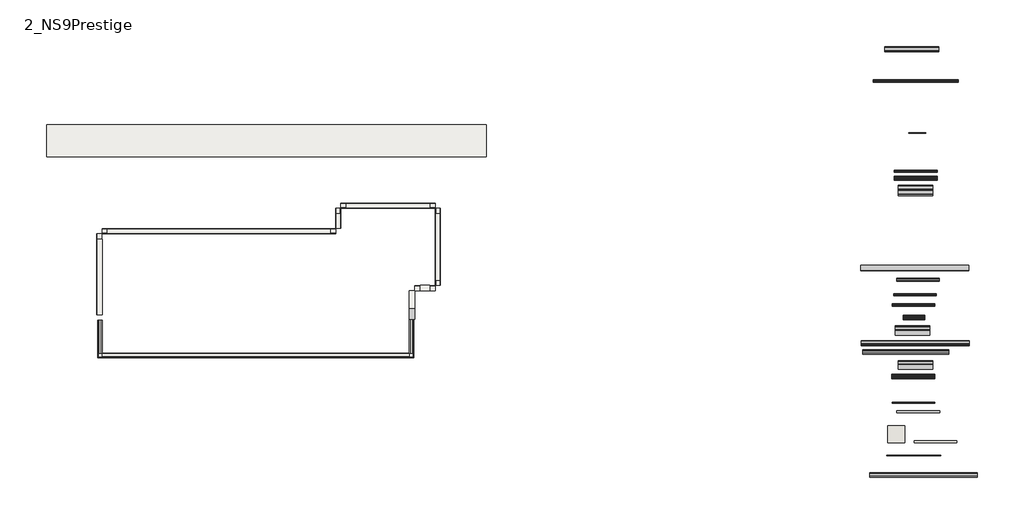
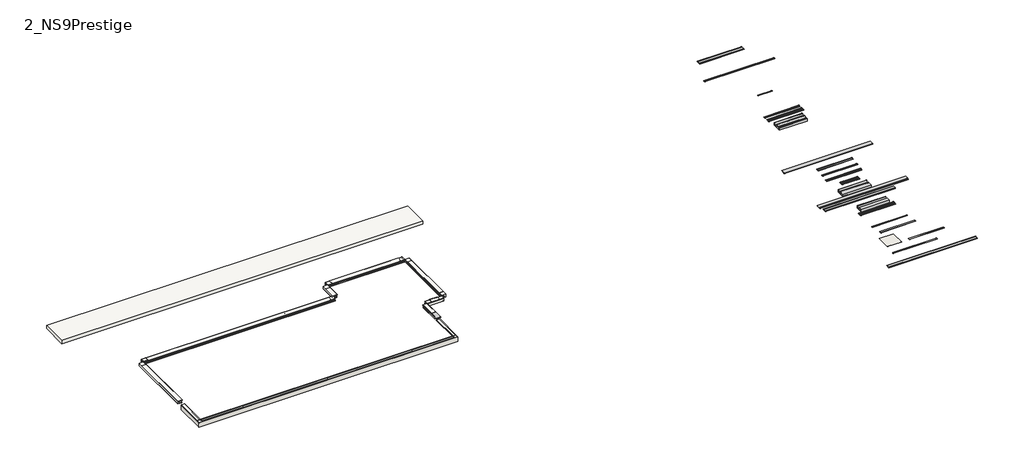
# One storey: 21 proxies, 18 slabs, 5 walls.
"""IFC4 building model written with IfcOpenShell, lengths in millimetres."""

from ifc_helpers import new_model, si_unit, frame, origin, place, context, project, spatial, polyline, outline, extrude, faceted_brep, transform, mapped, element, save
from components import generic_models_8ecae792, generic_models_b1896c54, generic_models_54147b73, generic_models_b9b95333, generic_models_aabe8a61, generic_models_b8b53aee, generic_models_fe17f52b, generic_models_7034d713, generic_models_974fd3aa, generic_models_bae6f31c, generic_models_4adef035, generic_models_2699ce9c, generic_models_ffed2a8b, generic_models_b56241a0, generic_models_6b5908dc, generic_models_9f248290, generic_models_0c7c71ab, generic_models_16c41e59, generic_models_e84ea2a9, generic_models_8b6e8294, generic_models_1c02ff2d, slab_2a0611e9, slab_2759e49a, slab_fb81437d, slab_95e174f0, slab_357b1d08, slab_759c7b63, slab_1f1ebde0, slab_3f97a147, slab_975a66a1, slab_562a9645, bloque_rs_951_757072f9, bloque_rs_951_10da1a55, bloque_rs_951_037b68bb, bloque_rs_951_400cc816, bloque_rs_951_bf02a5ba, bloque_rs_951_6084ace4, bloque_rs_951_bd9da47f, wall_9159aa23, wall_a92842a3

model = new_model("IFC4")

# Units and contexts
model_context = context("Model", 3, world=origin())
ifc_project = project(units=[si_unit("LENGTHUNIT", "METRE", prefix="MILLI")], contexts=[model_context])

# Site, building, storey
site = spatial("IfcSite", under=ifc_project)
building = spatial("IfcBuilding", under=site)
storey = spatial("IfcBuildingStorey", under=building, Name="2_NS9Prestige", Elevation=-245.0)

# Proxies
placement = place(None, origin())
generic_models_shape = generic_models_8ecae792(model_context)
element("IfcBuildingElementProxy", 1, Name="Muestra 2.01m RS921 : Muestra 2.01m RS921", ObjectType="Muestra 2.01m RS921 : Muestra 2.01m RS921", at=placement, inside=storey, context=model_context, shape_type="MappedRepresentation", body=[
    mapped(generic_models_shape, transform((-89597.418788, 18845.4376027, 0.0), x_axis=(1.0, 0.0, 0.0), y_axis=(0.0, 1.0, 0.0), z_axis=(0.0, 0.0, 1.0))),
])
generic_models_2_shape = generic_models_b1896c54(model_context)
element("IfcBuildingElementProxy", 2, Name="Muestra 6.32m 647 Anti-Slip : Muestra 6.32m 647 Anti-Slip", ObjectType="Muestra 6.32m 647 Anti-Slip : Muestra 6.32m 647 Anti-Slip", at=placement, inside=storey, context=model_context, shape_type="MappedRepresentation", body=[
    mapped(generic_models_2_shape, transform((-91597.418788, 18845.4376027, 0.0), x_axis=(1.0, 0.0, 0.0), y_axis=(0.0, 1.0, 0.0), z_axis=(0.0, 0.0, 1.0))),
])
generic_models_3_shape = generic_models_54147b73(model_context)
element("IfcBuildingElementProxy", 3, Name="Muestra 5.01m 245FL : Muestra 5.01m 245FL", ObjectType="Muestra 5.01m 245FL : Muestra 5.01m 245FL", at=placement, inside=storey, context=model_context, shape_type="MappedRepresentation", body=[
    mapped(generic_models_3_shape, transform((-91497.418788, 18845.4376027, 0.0), x_axis=(1.0, 0.0, 0.0), y_axis=(0.0, 1.0, 0.0), z_axis=(0.0, 0.0, 1.0))),
])
generic_models_4_shape = generic_models_b9b95333(model_context)
element("IfcBuildingElementProxy", 4, Name="Muestra 2.01m RS901 : Muestra 2.01m RS901", ObjectType="Muestra 2.01m RS901 : Muestra 2.01m RS901", at=placement, inside=storey, context=model_context, shape_type="MappedRepresentation", body=[
    mapped(generic_models_4_shape, transform((-95197.418788, 18845.4376027, 0.0), x_axis=(1.0, 0.0, 0.0), y_axis=(0.0, 1.0, 0.0), z_axis=(0.0, 0.0, 1.0))),
])
generic_models_5_shape = generic_models_aabe8a61(model_context)
element("IfcBuildingElementProxy", 5, Name="Muestra 2.5m 216 Anti-Slip : Muestra 2.5m 216 Anti-Slip", ObjectType="Muestra 2.5m 216 Anti-Slip : Muestra 2.5m 216 Anti-Slip", at=placement, inside=storey, context=model_context, shape_type="MappedRepresentation", body=[
    mapped(generic_models_5_shape, transform((5495.5435011, 67.730036, 0.0), x_axis=(1.0, 0.0, 0.0), y_axis=(0.0, 1.0, 0.0), z_axis=(0.0, 0.0, 1.0))),
])
generic_models_6_shape = generic_models_b8b53aee(model_context)
element("IfcBuildingElementProxy", 6, Name="Muestra 2.5m 112 Liso : Muestra 2.5m 112 Liso", ObjectType="Muestra 2.5m 112 Liso : Muestra 2.5m 112 Liso", at=placement, inside=storey, context=model_context, shape_type="MappedRepresentation", body=[
    mapped(generic_models_6_shape, transform((-89597.418788, 18845.4376027, 0.0), x_axis=(1.0, 0.0, 0.0), y_axis=(0.0, 1.0, 0.0), z_axis=(0.0, 0.0, 1.0))),
])
generic_models_7_shape = generic_models_fe17f52b(model_context)
element("IfcBuildingElementProxy", 7, Name="Muestra 2.5m 035 Anti-Slip : Muestra 2.5m 035 Anti-Slip", ObjectType="Muestra 2.5m 035 Anti-Slip : Muestra 2.5m 035 Anti-Slip", at=placement, inside=storey, context=model_context, shape_type="MappedRepresentation", body=[
    mapped(generic_models_7_shape, transform((-95197.418788, 18845.4376027, 0.0), x_axis=(1.0, 0.0, 0.0), y_axis=(0.0, 1.0, 0.0), z_axis=(0.0, 0.0, 1.0))),
])
generic_models_8_shape = generic_models_7034d713(model_context)
element("IfcBuildingElementProxy", 8, Name="Muestra 1.25m 016 : Muestra 1.25m 016", ObjectType="Muestra 1.25m 016 : Muestra 1.25m 016", at=placement, inside=storey, context=model_context, shape_type="MappedRepresentation", body=[
    mapped(generic_models_8_shape, transform((-97297.418788, 18845.4376027, 0.0), x_axis=(1.0, 0.0, 0.0), y_axis=(0.0, 1.0, 0.0), z_axis=(0.0, 0.0, 1.0))),
])
generic_models_9_shape = generic_models_974fd3aa(model_context)
element("IfcBuildingElementProxy", 9, Name="Muestra 2.5m 013 Anti-Slip : Muestra 2.5m 013 Anti-Slip", ObjectType="Muestra 2.5m 013 Anti-Slip : Muestra 2.5m 013 Anti-Slip", at=placement, inside=storey, context=model_context, shape_type="MappedRepresentation", body=[
    mapped(generic_models_9_shape, transform((-104497.418788, 19645.4376027, 0.0), x_axis=(1.0, 0.0, 0.0), y_axis=(0.0, 1.0, 0.0), z_axis=(0.0, 0.0, 1.0))),
])
generic_models_10_shape = generic_models_bae6f31c(model_context)
element("IfcBuildingElementProxy", 10, Name="Muestra 2.5m 007 Tecno : Muestra 2.5m 007 Tecno", ObjectType="Muestra 2.5m 007 Tecno : Muestra 2.5m 007 Tecno", at=placement, inside=storey, context=model_context, shape_type="MappedRepresentation", body=[
    mapped(generic_models_10_shape, transform((-105097.418788, 18845.4376027, 0.0), x_axis=(1.0, 0.0, 0.0), y_axis=(0.0, 1.0, 0.0), z_axis=(0.0, 0.0, 1.0))),
])
generic_models_11_shape = generic_models_4adef035(model_context)
element("IfcBuildingElementProxy", 11, Name="Muestra 2.5m 106 Liso : Muestra 2.5m 106 Liso", ObjectType="Muestra 2.5m 106 Liso : Muestra 2.5m 106 Liso", at=placement, inside=storey, context=model_context, shape_type="MappedRepresentation", body=[
    mapped(generic_models_11_shape, transform((-103997.418788, 18845.4376027, 0.0), x_axis=(1.0, 0.0, 0.0), y_axis=(0.0, 1.0, 0.0), z_axis=(0.0, 0.0, 1.0))),
])
generic_models_12_shape = generic_models_2699ce9c(model_context)
element("IfcBuildingElementProxy", 12, Name="Muestra 3.16m 188 : Muestra 3.16m 188", ObjectType="Muestra 3.16m 188 : Muestra 3.16m 188", at=placement, inside=storey, context=model_context, shape_type="MappedRepresentation", body=[
    mapped(generic_models_12_shape, transform((-95181.2011025, 18639.3974306, 0.0), x_axis=(1.0, 0.0, 0.0), y_axis=(0.0, 1.0, 0.0), z_axis=(0.0, 0.0, 1.0))),
])
generic_models_13_shape = generic_models_ffed2a8b(model_context)
element("IfcBuildingElementProxy", 13, Name="Muestra 6.32m L62 : Muestra 6.32m L62", ObjectType="Muestra 6.32m L62 : Muestra 6.32m L62", at=placement, inside=storey, context=model_context, shape_type="MappedRepresentation", body=[
    mapped(generic_models_13_shape, transform((-4.4564989, 67.730036, 0.0), x_axis=(1.0, 0.0, 0.0), y_axis=(0.0, 1.0, 0.0), z_axis=(0.0, 0.0, 1.0))),
])
generic_models_14_shape = generic_models_b56241a0(model_context)
element("IfcBuildingElementProxy", 14, Name="Muestra 2.01m RS911 : Muestra 2.01m RS911", ObjectType="Muestra 2.01m RS911 : Muestra 2.01m RS911", at=placement, inside=storey, context=model_context, shape_type="MappedRepresentation", body=[
    mapped(generic_models_14_shape, transform((-50828.1537213, -353.4985497, 0.0), x_axis=(1.0, 0.0, 0.0), y_axis=(0.0, 1.0, 0.0), z_axis=(0.0, 0.0, 1.0))),
])
generic_models_15_shape = generic_models_6b5908dc(model_context)
element("IfcBuildingElementProxy", 15, Name="Muestra 2.5m 001 (2filas) : Muestra 2.5m 001(2filas)", ObjectType="Muestra 2.5m 001 (2filas) : Muestra 2.5m 001(2filas)", at=placement, inside=storey, context=model_context, shape_type="MappedRepresentation", body=[
    mapped(generic_models_15_shape, transform((-50828.1537213, -1953.4985497, 0.0), x_axis=(1.0, 0.0, 0.0), y_axis=(0.0, 1.0, 0.0), z_axis=(0.0, 0.0, 1.0))),
])
generic_models_16_shape = generic_models_9f248290(model_context)
element("IfcBuildingElementProxy", 16, Name="Muestra 6.32m 245 CM : Muestra 6.32m 245 CM", ObjectType="Muestra 6.32m 245 CM : Muestra 6.32m 245 CM", at=placement, inside=storey, context=model_context, shape_type="MappedRepresentation", body=[
    mapped(generic_models_16_shape, transform((-33881.5616351, -90.6199554, 0.0), x_axis=(1.0, 0.0, 0.0), y_axis=(0.0, 1.0, 0.0), z_axis=(0.0, 0.0, 1.0))),
])
generic_models_17_shape = generic_models_0c7c71ab(model_context)
element("IfcBuildingElementProxy", 17, Name="Muestra 2.5m 001 (1fila) : Muestra 2.5m 001(1fila)", ObjectType="Muestra 2.5m 001 (1fila) : Muestra 2.5m 001(1fila)", at=placement, inside=storey, context=model_context, shape_type="MappedRepresentation", body=[
    mapped(generic_models_17_shape, transform((-32926.5171586, 87.7897514, 0.0), x_axis=(1.0, 0.0, 0.0), y_axis=(0.0, 1.0, 0.0), z_axis=(0.0, 0.0, 1.0))),
])
generic_models_18_shape = generic_models_16c41e59(model_context)
element("IfcBuildingElementProxy", 18, Name="Muestra 1.00ML_243 PF : Muestra 1.00ML_243 PF", ObjectType="Muestra 1.00ML_243 PF : Muestra 1.00ML_243 PF", at=placement, inside=storey, context=model_context, shape_type="MappedRepresentation", body=[
    mapped(generic_models_18_shape, transform((-61892.2920865, 227.7805031, 0.0), x_axis=(1.0, 0.0, 0.0), y_axis=(0.0, 1.0, 0.0), z_axis=(0.0, 0.0, 1.0))),
])
generic_models_19_shape = generic_models_e84ea2a9(model_context)
element("IfcBuildingElementProxy", 19, Name="Muestra_5 m G49 : Muestra_5 m G49", ObjectType="Muestra_5 m G49 : Muestra_5 m G49", at=placement, inside=storey, context=model_context, shape_type="MappedRepresentation", body=[
    mapped(generic_models_19_shape, transform((-22539.1005263, 948.630554, 0.0), x_axis=(1.0, 0.0, 0.0), y_axis=(0.0, 1.0, 0.0), z_axis=(0.0, 0.0, 1.0))),
])
generic_models_20_shape = generic_models_8b6e8294(model_context)
element("IfcBuildingElementProxy", 20, Name="Muestra 3.16m_367 : Muestra 3.16m_367", ObjectType="Muestra 3.16m_367 : Muestra 3.16m_367", at=placement, inside=storey, context=model_context, shape_type="MappedRepresentation", body=[
    mapped(generic_models_20_shape, transform((-4.4564989, 67.730036, 0.0), x_axis=(1.0, 0.0, 0.0), y_axis=(0.0, 1.0, 0.0), z_axis=(0.0, 0.0, 1.0))),
])
generic_models_21_shape = generic_models_1c02ff2d(model_context)
element("IfcBuildingElementProxy", 21, Name="ROSA GRES_ED6 (largo y profundidad) : Pieza ED6_Tao_Beige_Anti-Slip", ObjectType="ROSA GRES_ED6 (largo y profundidad) : Pieza ED6_Tao_Beige_Anti-Slip", at=placement, inside=storey, context=model_context, shape_type="MappedRepresentation", body=[
    mapped(generic_models_21_shape, transform((20111.1007804, 13096.3792528, 0.0), x_axis=(0.0, -1.0, 0.0), y_axis=(1.0, 0.0, 0.0), z_axis=(0.0, 0.0, 1.0))),
])

# Slabs
element("IfcSlab", 22, ObjectType="GENÉRICO_HIERBA", at=placement, inside=storey, context=model_context, shape_type="SweptSolid", body=[
    extrude(outline(polyline([(24628.3954073, 22598.8070482), (-1132.5413282, 22598.8070482), (-1132.5413282, 24476.2871283), (24628.3954073, 24476.2871283), (24628.3954073, 22598.8070482)])), frame((0.0, 0.0, -231.0), z_axis=(0.0, 0.0, 1.0), x_axis=(1.0, 0.0, 0.0)), (0.0, 0.0, 1.0), 231.0),
])
slab_shape = slab_2a0611e9(model_context)
element("IfcSlab", 23, ObjectType="ROSA GRES_L62 : Pieza L62_Tao_Beige_Anti-Slip", at=placement, inside=storey, context=model_context, shape_type="MappedRepresentation", body=[
    mapped(slab_shape, transform((2120.1007804, 13352.6035327, 0.0), x_axis=(0.0, 1.0, 0.0), y_axis=(-1.0, 0.0, 0.0), z_axis=(0.0, 0.0, 1.0))),
])
slab_2_shape = slab_2759e49a(model_context)
element("IfcSlab", 24, ObjectType="ROSA GRES_L62 : Pieza L62_Tao_Beige_Anti-Slip", at=placement, inside=storey, context=model_context, shape_type="MappedRepresentation", body=[
    mapped(slab_2_shape, transform((2425.1007804, 18093.1035327, 0.0), x_axis=(1.0, 0.0, 0.0), y_axis=(0.0, 1.0, 0.0), z_axis=(0.0, 0.0, 1.0))),
])
slab_3_shape = slab_fb81437d(model_context)
element("IfcSlab", 25, ObjectType="ROSA GRES_L62 : Pieza L62_Tao_Beige_Anti-Slip", at=placement, inside=storey, context=model_context, shape_type="MappedRepresentation", body=[
    mapped(slab_3_shape, transform((16107.1007804, 18413.6035327, 0.0), x_axis=(0.0, 1.0, 0.0), y_axis=(-1.0, 0.0, 0.0), z_axis=(0.0, 0.0, 1.0))),
])
slab_4_shape = slab_95e174f0(model_context)
element("IfcSlab", 26, ObjectType="ROSA GRES_L62 : Pieza L62_Tao_Beige_Anti-Slip", at=placement, inside=storey, context=model_context, shape_type="MappedRepresentation", body=[
    mapped(slab_4_shape, transform((21312.1007804, 19584.1035327, 0.0), x_axis=(-1.0, 0.0, 0.0), y_axis=(0.0, -1.0, 0.0), z_axis=(0.0, 0.0, 1.0))),
])
slab_5_shape = slab_357b1d08(model_context)
element("IfcSlab", 27, ObjectType="ROSA GRES_L62 : Pieza L62_Tao_Beige_Anti-Slip", at=placement, inside=storey, context=model_context, shape_type="MappedRepresentation", body=[
    mapped(slab_5_shape, transform((21617.6007804, 15394.1035327, 0.0), x_axis=(0.0, 1.0, 0.0), y_axis=(-1.0, 0.0, 0.0), z_axis=(0.0, 0.0, 1.0))),
])
slab_6_shape = slab_759c7b63(model_context)
element("IfcSlab", 28, ObjectType="ROSA GRES_L62 : Pieza L62_Tao_Beige_Anti-Slip", at=placement, inside=storey, context=model_context, shape_type="MappedRepresentation", body=[
    mapped(slab_6_shape, transform((21307.6007804, 15084.1035327, 0.0), x_axis=(-1.0, 0.0, 0.0), y_axis=(0.0, -1.0, 0.0), z_axis=(0.0, 0.0, 1.0))),
])
slab_7_shape = slab_1f1ebde0(model_context)
element("IfcSlab", 29, ObjectType="ROSA GRES_L62 : Pieza L62_Tao_Beige_Anti-Slip", at=placement, inside=storey, context=model_context, shape_type="MappedRepresentation", body=[
    mapped(slab_7_shape, transform((20111.1007804, 14767.1035327, 0.0), x_axis=(0.0, -1.0, 0.0), y_axis=(1.0, 0.0, 0.0), z_axis=(0.0, 0.0, 1.0))),
])
slab_8_shape = slab_3f97a147(model_context)
element("IfcSlab", 30, ObjectType="ROSA GRES_I25_Inclinación : Pieza I25_Tao_Beige_Anti-Slip", at=placement, inside=storey, context=model_context, shape_type="MappedRepresentation", body=[
    mapped(slab_8_shape, transform((20111.1007804, 11102.1035327, -145.0), x_axis=(-1.0, 0.0, 0.0), y_axis=(0.0, -1.0, 0.0), z_axis=(0.0, 0.0, 1.0))),
])
slab_9_shape = slab_975a66a1(model_context)
element("IfcSlab", 31, ObjectType="ROSA GRES_I25_Inclinación : Pieza I25_Tao_Beige_Anti-Slip", at=placement, inside=storey, context=model_context, shape_type="MappedRepresentation", body=[
    mapped(slab_9_shape, transform((20111.1007804, 13102.1035327, -145.0), x_axis=(0.0, -1.0, 0.0), y_axis=(1.0, 0.0, 0.0), z_axis=(0.0, 0.0, 1.0))),
])
slab_10_shape = slab_562a9645(model_context)
element("IfcSlab", 32, ObjectType="ROSA GRES_I25_Inclinación : Pieza I25_Tao_Beige_Anti-Slip", at=placement, inside=storey, context=model_context, shape_type="MappedRepresentation", body=[
    mapped(slab_10_shape, transform((2120.1007804, 11102.1035327, -145.0), x_axis=(0.0, 1.0, 0.0), y_axis=(-1.0, 0.0, 0.0), z_axis=(0.0, 0.0, 1.0))),
])
bloque_rs_951_shape = bloque_rs_951_757072f9(model_context)
element("IfcSlab", 33, ObjectType="ROSA GRES_RS 951 : Bloque_RS 951", at=placement, inside=storey, context=model_context, shape_type="MappedRepresentation", body=[
    mapped(bloque_rs_951_shape, transform((2120.1007804, 18093.1035327, -227.0), x_axis=(1.0, 0.0, 0.0), y_axis=(0.0, 1.0, 0.0), z_axis=(0.0, 0.0, 1.0))),
])
bloque_rs_951_2_shape = bloque_rs_951_10da1a55(model_context)
element("IfcSlab", 34, ObjectType="ROSA GRES_RS 951 : Bloque_RS 951", at=placement, inside=storey, context=model_context, shape_type="MappedRepresentation", body=[
    mapped(bloque_rs_951_2_shape, transform((16107.1007804, 18413.6035327, -227.0), x_axis=(0.0, 1.0, 0.0), y_axis=(-1.0, 0.0, 0.0), z_axis=(0.0, 0.0, 1.0))),
])
bloque_rs_951_3_shape = bloque_rs_951_037b68bb(model_context)
element("IfcSlab", 35, ObjectType="ROSA GRES_RS 951 : Bloque_RS 951", at=placement, inside=storey, context=model_context, shape_type="MappedRepresentation", body=[
    mapped(bloque_rs_951_3_shape, transform((21617.6007804, 15084.1035327, -227.0), x_axis=(-1.0, 0.0, 0.0), y_axis=(0.0, -1.0, 0.0), z_axis=(0.0, 0.0, 1.0))),
])
bloque_rs_951_4_shape = bloque_rs_951_400cc816(model_context)
element("IfcSlab", 36, ObjectType="ROSA GRES_RS 951 : Bloque_RS 951", at=placement, inside=storey, context=model_context, shape_type="MappedRepresentation", body=[
    mapped(bloque_rs_951_4_shape, transform((21617.6007804, 15084.1035327, -227.0), x_axis=(0.0, 1.0, 0.0), y_axis=(-1.0, 0.0, 0.0), z_axis=(0.0, 0.0, 1.0))),
])
bloque_rs_951_5_shape = bloque_rs_951_bf02a5ba(model_context)
element("IfcSlab", 37, ObjectType="ROSA GRES_RS 951 : Bloque_RS 951", at=placement, inside=storey, context=model_context, shape_type="MappedRepresentation", body=[
    mapped(bloque_rs_951_5_shape, transform((21617.6007804, 19584.1035327, -227.0), x_axis=(-1.0, 0.0, 0.0), y_axis=(0.0, -1.0, 0.0), z_axis=(0.0, 0.0, 1.0))),
])
bloque_rs_951_6_shape = bloque_rs_951_6084ace4(model_context)
element("IfcSlab", 38, ObjectType="ROSA GRES_RS 951 : Bloque_RS 951", at=placement, inside=storey, context=model_context, shape_type="MappedRepresentation", body=[
    mapped(bloque_rs_951_6_shape, transform((2120.1007804, 13357.6035327, -227.0), x_axis=(0.0, 1.0, 0.0), y_axis=(-1.0, 0.0, 0.0), z_axis=(0.0, 0.0, 1.0))),
])
bloque_rs_951_7_shape = bloque_rs_951_bd9da47f(model_context)
element("IfcSlab", 39, ObjectType="ROSA GRES_RS 951 : Bloque_RS 951", at=placement, inside=storey, context=model_context, shape_type="MappedRepresentation", body=[
    mapped(bloque_rs_951_7_shape, transform((20111.1007804, 14762.1035327, -227.0), x_axis=(0.0, -1.0, 0.0), y_axis=(1.0, 0.0, 0.0), z_axis=(0.0, 0.0, 1.0))),
])

# Walls
element("IfcWall", 40, ObjectType="Pieza 316_Patrón 1/3_Tao_Beige_Liso", at=placement, inside=storey, context=model_context, shape_type="Brep", body=[
    faceted_brep([(20358.742889, 10862.2114241, -475.0413492), (1872.4586718, 10862.2114241, -475.0413492), (1872.4586718, 10862.2114241, -460.1557849), (1872.4586718, 10862.2114241, -124.816998), (1872.4586718, 10862.2114241, -124.0571078), (20358.742889, 10862.2114241, -124.0571078), (20358.742889, 10853.2114241, -475.0413492), (20358.742889, 10853.2114241, -124.0571078), (1872.4586718, 10853.2114241, -124.0571078), (1872.4586718, 10853.2114241, -475.0413492)], [[[0, 1, 2, 3, 4, 5]], [[6, 7, 8, 9]], [[1, 0, 6, 9]], [[5, 4, 8, 7]], [[4, 3, 2, 1, 9, 8]], [[0, 5, 7, 6]]]),
])
element("IfcWall", 41, ObjectType="Pieza 316_Patrón 1/3_Tao_Beige_Liso", at=placement, inside=storey, context=model_context, shape_type="SweptSolid", body=[
    extrude(outline(polyline([(1881.4586718, 13033.9614241), (1881.4586718, 10862.2114241), (1872.4586718, 10862.2114241), (1872.4586718, 13033.9614241), (1881.4586718, 13033.9614241)])), frame((0.0, 0.0, -460.1557849), z_axis=(0.0, 0.0, 1.0), x_axis=(1.0, 0.0, 0.0)), (0.0, 0.0, 1.0), 335.3387869),
])
element("IfcWall", 42, ObjectType="Pieza 316_Patrón 1/3_Tao_Beige_Liso", at=placement, inside=storey, context=model_context, shape_type="Brep", body=[
    faceted_brep([(20349.742889, 13097.6035327, -476.49072), (20349.742889, 10862.2114241, -476.49072), (20349.742889, 10862.2114241, -123.5543053), (20349.742889, 13097.6035327, -123.5543053), (20349.742889, 13097.6035327, -445.0), (20358.742889, 13097.6035327, -476.49072), (20358.742889, 13097.6035327, -123.5543053), (20358.742889, 10862.2114241, -123.5543053), (20358.742889, 10862.2114241, -124.0571078), (20358.742889, 10862.2114241, -475.0413492), (20358.742889, 10862.2114241, -476.49072)], [[[0, 1, 2, 3, 4]], [[5, 6, 7, 8, 9, 10]], [[1, 0, 5, 10]], [[3, 2, 7, 6]], [[2, 1, 10, 9, 8, 7]], [[0, 4, 3, 6, 5]]]),
])
wall_shape = wall_9159aa23(model_context)
element("IfcWall", 43, ObjectType="Muestra 1m2_320 Liso : Muestra 1m2_320 Liso", at=placement, inside=storey, context=model_context, shape_type="MappedRepresentation", body=[
    mapped(wall_shape, transform((-4.4564989, 67.730036, 0.0), x_axis=(1.0, 0.0, 0.0), y_axis=(0.0, 1.0, 0.0), z_axis=(0.0, 0.0, 1.0))),
])
wall_2_shape = wall_a92842a3(model_context)
element("IfcWall", 44, ObjectType="Muestra_10Piezas_122 G1 Liso : Muestra_10Piezas_122G Liso", at=placement, inside=storey, context=model_context, shape_type="MappedRepresentation", body=[
    mapped(wall_2_shape, transform((-4.4564989, 67.730036, 0.0), x_axis=(1.0, 0.0, 0.0), y_axis=(0.0, 1.0, 0.0), z_axis=(0.0, 0.0, 1.0))),
])

save(model, "model.ifc")
